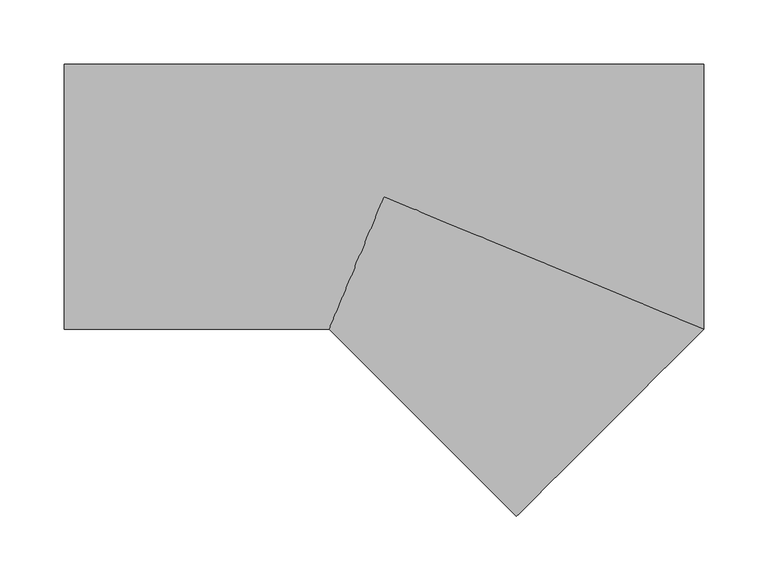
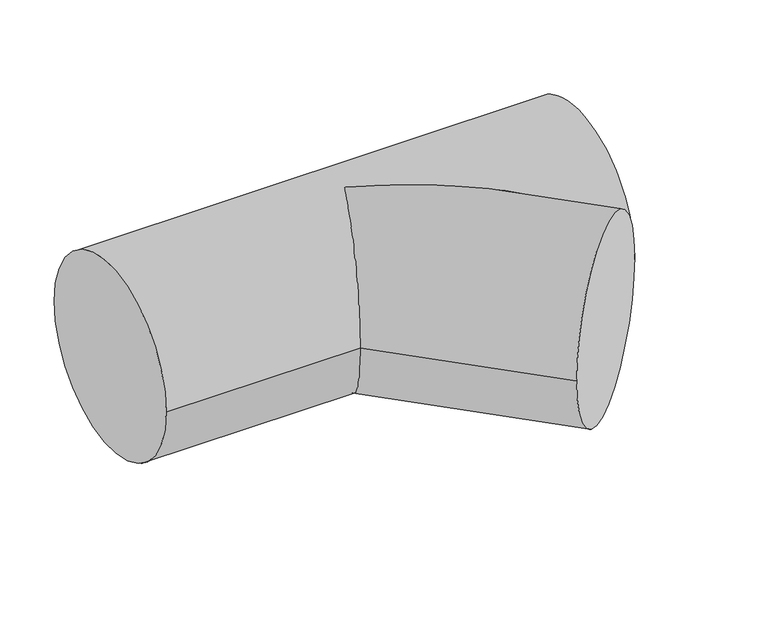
"""IFC4 building model written with IfcOpenShell, lengths in millimetres: pipe fitting geometry, M_Te - Genérica : Estándar."""

from ifc_helpers import new_model, si_unit, frame, origin, place, context, project, spatial, circle_curve, ellipse_curve, source, transform, mapped, element, save
from ifc_brep_helpers import plane_surface, cylinder_surface, advanced_brep


def pipe_fitting_8405c6f3(model_context):
    return source(origin(), model_context, "Body", "AdvancedBrep", [
        advanced_brep(
        [(-249.116662, -103.1875, 0.0), (-249.116662, 103.1875, 0.0), (249.116662, -103.1875, 0.0), (249.116662, 103.1875, 0.0), (-42.741662, -103.1875, 0.0), (0.0, 0.0, 103.1875), (0.0, 0.0, -103.1875), (103.1875, -249.116662, 0.0)],
        [
            (0, 1, circle_curve(frame((-249.116662, 0.0, 0.0), z_axis=(-1.0, 0.0, 0.0), x_axis=(0.0, 1.0, 0.0)), 103.1875)),
            (1, 0, circle_curve(frame((-249.116662, 0.0, 0.0), z_axis=(-1.0, 0.0, 0.0), x_axis=(0.0, 1.0, 0.0)), 103.1875)),
            (2, 3, circle_curve(frame((249.116662, 0.0, 0.0), z_axis=(1.0, 0.0, 0.0), x_axis=(0.0, 1.0, 0.0)), 103.1875)),
            (3, 2, circle_curve(frame((249.116662, 0.0, 0.0), z_axis=(1.0, 0.0, 0.0), x_axis=(0.0, 1.0, 0.0)), 103.1875)),
            (0, 4),
            (4, 5, ellipse_curve(frame((0.0, 0.0, 0.0), z_axis=(-0.923879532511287, 0.3826834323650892, 0.0), x_axis=(-0.38268343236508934, -0.923879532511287, 0.0)), 111.6893452, 103.1875)),
            (5, 2, ellipse_curve(frame((0.0, 0.0, 0.0), z_axis=(0.3826834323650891, 0.923879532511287, 0.0), x_axis=(-0.9238795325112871, 0.3826834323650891, 0.0)), 269.6419319, 103.1875)),
            (3, 1),
            (2, 6, ellipse_curve(frame((0.0, 0.0, 0.0), z_axis=(0.3826834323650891, 0.923879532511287, 0.0), x_axis=(-0.9238795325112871, 0.3826834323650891, 0.0)), 269.6419319, 103.1875)),
            (6, 4, ellipse_curve(frame((0.0, 0.0, 0.0), z_axis=(-0.923879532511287, 0.3826834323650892, 0.0), x_axis=(-0.38268343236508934, -0.923879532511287, 0.0)), 111.6893452, 103.1875)),
            (7, 2, circle_curve(frame((176.152081, -176.152081, 0.0), z_axis=(0.7071067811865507, -0.7071067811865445, 0.0), x_axis=(0.7071067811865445, 0.7071067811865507, 0.0)), 103.1875)),
            (2, 7, circle_curve(frame((176.152081, -176.152081, 0.0), z_axis=(0.7071067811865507, -0.7071067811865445, 0.0), x_axis=(0.7071067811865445, 0.7071067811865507, 0.0)), 103.1875)),
            (4, 7),
        ],
        [
            plane_surface(frame((-249.116662, 0.0, 0.0), z_axis=(-1.0, 0.0, 0.0), x_axis=(0.0, 0.0, 1.0))),
            plane_surface(frame((249.116662, 0.0, 0.0), z_axis=(1.0, 0.0, 0.0), x_axis=(0.0, 0.0, 1.0))),
            cylinder_surface(frame((-249.116662, 0.0, 0.0), z_axis=(-1.0, 0.0, 0.0), x_axis=(0.0, 1.0, 0.0)), 103.1875),
            plane_surface(frame((176.152081, -176.152081, 0.0), z_axis=(0.7071067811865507, -0.7071067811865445, 0.0), x_axis=(0.0, 0.0, 1.0))),
            cylinder_surface(frame((0.0, 0.0, 0.0), z_axis=(-0.7071067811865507, 0.7071067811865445, 0.0), x_axis=(0.7071067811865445, 0.7071067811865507, 0.0)), 103.1875),
        ],
        [
            (0, [[1, 2]]),
            (1, [[3, 4]]),
            (2, [[-1, 5, 6, 7, -4, 8]]),
            (2, [[-2, -8, -3, 9, 10, -5]]),
            (3, [[11, 12]]),
            (4, [[-12, -7, -6, 13]]),
            (4, [[-11, -13, -10, -9]]),
        ],
    ),
    ])


if __name__ == "__main__":
    model = new_model("IFC4")
    model_context = context("Model", 3, world=origin())
    ifc_project = project(units=[si_unit("LENGTHUNIT", "METRE", prefix="MILLI")], contexts=[model_context])
    site = spatial("IfcSite", under=ifc_project)
    building = spatial("IfcBuilding", under=site)
    placement = place(None, origin())
    pipe_fitting_shape = pipe_fitting_8405c6f3(model_context)
    element("IfcPipeFitting", 1, ObjectType="M_Te - Genérica : Estándar", at=placement, inside=building, context=model_context, shape_type="MappedRepresentation", body=[
        mapped(pipe_fitting_shape, transform((0.0, 0.0, 0.0), x_axis=(1.0, 0.0, 0.0), y_axis=(0.0, 1.0, 0.0), z_axis=(0.0, 0.0, 1.0))),
    ])
    save(model, "model.ifc")
